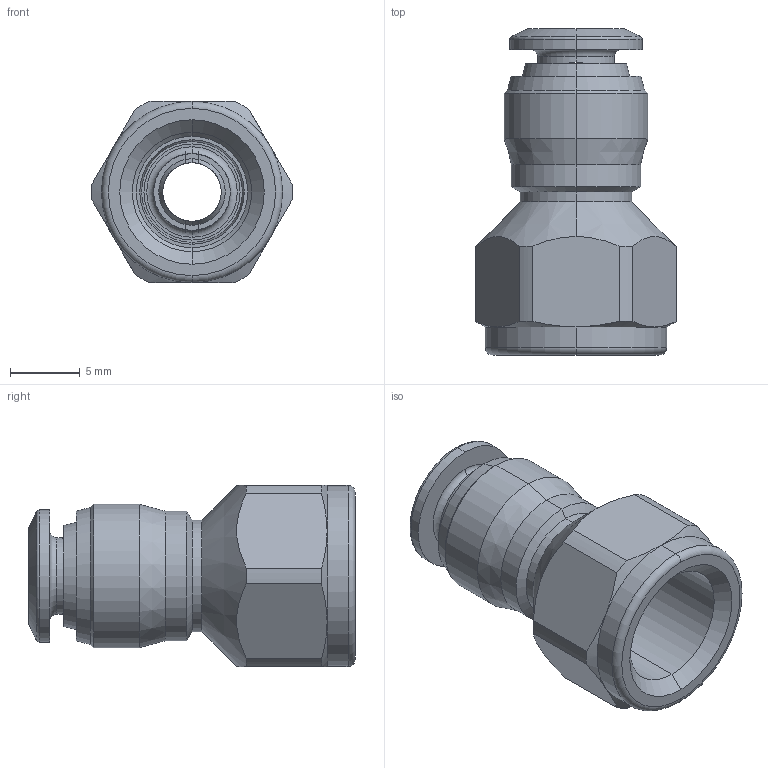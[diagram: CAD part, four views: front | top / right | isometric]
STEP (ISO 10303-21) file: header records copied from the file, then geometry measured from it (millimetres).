
FILE_DESCRIPTION (( 'STEP AP214' ), '1' );
FILE_NAME ('40030V0001A.STEP', '2016-05-16T11:45:50', ( '' ), ( '' ), 'SwSTEP 2.0', 'SolidWorks 2016', '' );
FILE_SCHEMA (( 'AUTOMOTIVE_DESIGN' ));
Length unit declared in the file: millimetre
Products named in the file (1): 40030V0001A
Bounding box: 14.39 x 23.4 x 13 mm (x, y, z)
Surface area: 1460.3 mm2 (no closed solid volume)
Topology: 0 solids, 3 shells, 74 faces, 194 edges, 122 vertices
Faces by surface type: cone 26, cylinder 26, plane 16, torus 6
Entity records: 3207 total; most frequent: CARTESIAN_POINT 539, DIRECTION 414, ORIENTED_EDGE 348, EDGE_CURVE 194, AXIS2_PLACEMENT_3D 169, VERTEX_POINT 122, CIRCLE 94, EDGE_LOOP 80
